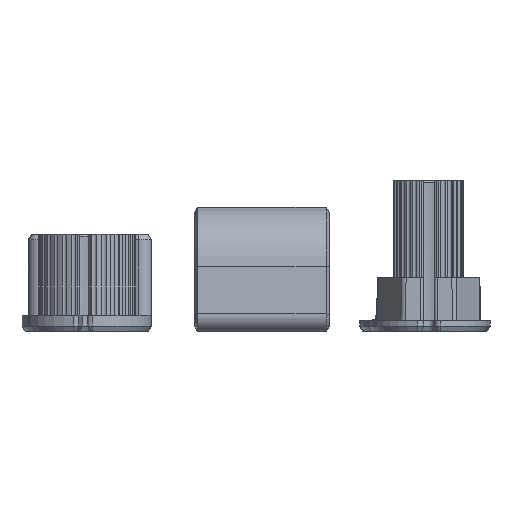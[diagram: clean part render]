
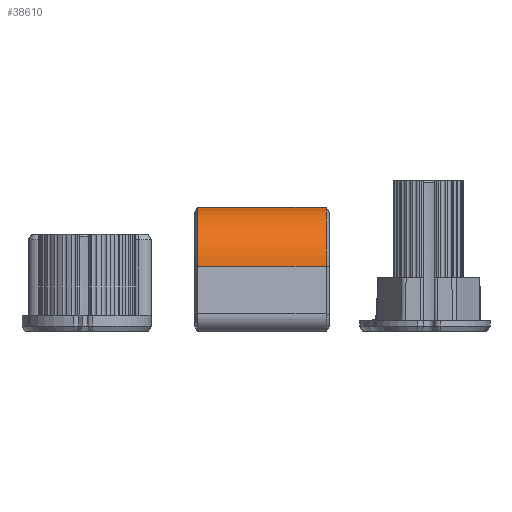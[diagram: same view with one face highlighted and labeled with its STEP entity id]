
A CAD part, front view. The second image highlights one B-rep face of the part: STEP entity #38610.
In plain terms, the highlighted cylindrical face has radius 12 mm (diameter 24 mm), a partial arc.
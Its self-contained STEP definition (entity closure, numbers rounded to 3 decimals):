
#532 = CARTESIAN_POINT ( 'NONE',  ( -12.5, -22., 24. ) ) ;
#2021 = EDGE_CURVE ( 'NONE', #39041, #34949, #32425, .T. ) ;
#3101 = DIRECTION ( 'NONE',  ( 0., 0., 1. ) ) ;
#3855 = VECTOR ( 'NONE', #10324, 1000. ) ;
#3973 = VERTEX_POINT ( 'NONE', #6929 ) ;
#4077 = CARTESIAN_POINT ( 'NONE',  ( -11.923, -22., 24. ) ) ;
#5191 = ORIENTED_EDGE ( 'NONE', *, *, #34223, .T. ) ;
#6045 = CARTESIAN_POINT ( 'NONE',  ( -11.923, -33.954, 13.046 ) ) ;
#6236 = FACE_OUTER_BOUND ( 'NONE', #11807, .T. ) ;
#6929 = CARTESIAN_POINT ( 'NONE',  ( 11.923, -22., 24. ) ) ;
#7170 = CARTESIAN_POINT ( 'NONE',  ( 30.985, -33.954, 13.046 ) ) ;
#8162 = CARTESIAN_POINT ( 'NONE',  ( 11.923, -22., 12. ) ) ;
#9003 = CARTESIAN_POINT ( 'NONE',  ( 44.39, -22., 12. ) ) ;
#9062 = AXIS2_PLACEMENT_3D ( 'NONE', #12269, #24330, #24527 ) ;
#10125 = LINE ( 'NONE', #7170, #3855 ) ;
#10324 = DIRECTION ( 'NONE',  ( -1., 0., 0. ) ) ;
#11807 = EDGE_LOOP ( 'NONE', ( #20043, #5191, #38049, #24624 ) ) ;
#12269 = CARTESIAN_POINT ( 'NONE',  ( -11.923, -22., 12. ) ) ;
#15203 = VERTEX_POINT ( 'NONE', #32982 ) ;
#16810 = CIRCLE ( 'NONE', #22445, 12. ) ;
#18251 = CYLINDRICAL_SURFACE ( 'NONE', #22310, 12. ) ;
#19587 = DIRECTION ( 'NONE',  ( -1., 0., 0. ) ) ;
#20043 = ORIENTED_EDGE ( 'NONE', *, *, #26857, .F. ) ;
#21607 = EDGE_CURVE ( 'NONE', #39041, #3973, #38817, .T. ) ;
#22310 = AXIS2_PLACEMENT_3D ( 'NONE', #9003, #30359, #3101 ) ;
#22445 = AXIS2_PLACEMENT_3D ( 'NONE', #8162, #19587, #31714 ) ;
#24330 = DIRECTION ( 'NONE',  ( 1., 0., 0. ) ) ;
#24527 = DIRECTION ( 'NONE',  ( 0., 0., -1. ) ) ;
#24624 = ORIENTED_EDGE ( 'NONE', *, *, #2021, .T. ) ;
#26857 = EDGE_CURVE ( 'NONE', #15203, #34949, #10125, .T. ) ;
#27148 = DIRECTION ( 'NONE',  ( 1., 0., 0. ) ) ;
#28563 = VECTOR ( 'NONE', #27148, 1000. ) ;
#30359 = DIRECTION ( 'NONE',  ( -1., 0., 0. ) ) ;
#31714 = DIRECTION ( 'NONE',  ( 0., 0., 1. ) ) ;
#32425 = CIRCLE ( 'NONE', #9062, 12. ) ;
#32982 = CARTESIAN_POINT ( 'NONE',  ( 11.923, -33.954, 13.046 ) ) ;
#34223 = EDGE_CURVE ( 'NONE', #15203, #3973, #16810, .T. ) ;
#34949 = VERTEX_POINT ( 'NONE', #6045 ) ;
#38049 = ORIENTED_EDGE ( 'NONE', *, *, #21607, .F. ) ;
#38610 = ADVANCED_FACE ( 'NONE', ( #6236 ), #18251, .T. ) ;
#38817 = LINE ( 'NONE', #532, #28563 ) ;
#39041 = VERTEX_POINT ( 'NONE', #4077 ) ;
